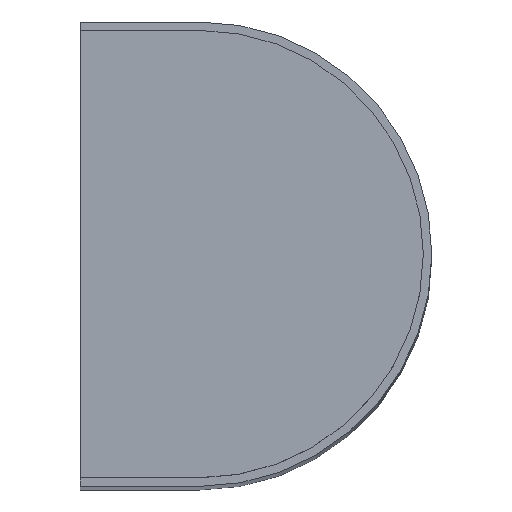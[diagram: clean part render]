
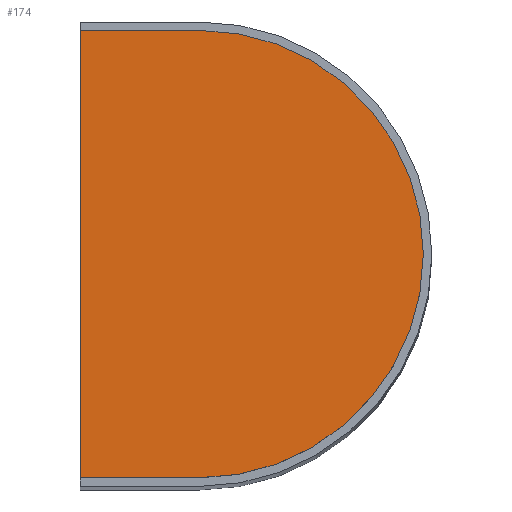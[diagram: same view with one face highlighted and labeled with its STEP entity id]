
A CAD part, top view. The second image highlights one B-rep face of the part: STEP entity #174.
In plain terms, the highlighted planar face has unit normal (0, 0, 1).
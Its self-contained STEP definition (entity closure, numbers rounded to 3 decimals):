
#39 = ORIENTED_EDGE ( 'NONE', *, *, #203, .T. ) ;
#40 = ORIENTED_EDGE ( 'NONE', *, *, #209, .T. ) ;
#41 = ORIENTED_EDGE ( 'NONE', *, *, #215, .T. ) ;
#42 = ORIENTED_EDGE ( 'NONE', *, *, #224, .T. ) ;
#78 = VERTEX_POINT ( 'NONE', #321 ) ;
#86 = VERTEX_POINT ( 'NONE', #294 ) ;
#88 = VERTEX_POINT ( 'NONE', #291 ) ;
#89 = VERTEX_POINT ( 'NONE', #287 ) ;
#108 = EDGE_LOOP ( 'NONE', ( #39, #40, #41, #42 ) ) ;
#127 = FACE_OUTER_BOUND ( 'NONE', #108, .T. ) ;
#150 = LINE ( 'NONE', #363, #153 ) ;
#153 = VECTOR ( 'NONE', #361, 1000. ) ;
#174 = ADVANCED_FACE ( 'NONE', ( #127 ), #405, .T. ) ;
#181 = CIRCLE ( 'NONE', #249, 65.5 ) ;
#203 = EDGE_CURVE ( 'NONE', #89, #88, #150, .T. ) ;
#209 = EDGE_CURVE ( 'NONE', #88, #86, #467, .T. ) ;
#215 = EDGE_CURVE ( 'NONE', #86, #78, #442, .T. ) ;
#224 = EDGE_CURVE ( 'NONE', #78, #89, #181, .T. ) ;
#240 = AXIS2_PLACEMENT_3D ( 'NONE', #403, #398, #397 ) ;
#249 = AXIS2_PLACEMENT_3D ( 'NONE', #312, #311, #310 ) ;
#287 = CARTESIAN_POINT ( 'NONE',  ( -68., 65.5, 325.25 ) ) ;
#291 = CARTESIAN_POINT ( 'NONE',  ( -103., 65.5, 325.25 ) ) ;
#294 = CARTESIAN_POINT ( 'NONE',  ( -103., -65.5, 325.25 ) ) ;
#310 = DIRECTION ( 'NONE',  ( 1., 0., 0. ) ) ;
#311 = DIRECTION ( 'NONE',  ( 0., 0., 1. ) ) ;
#312 = CARTESIAN_POINT ( 'NONE',  ( -68., 0., 325.25 ) ) ;
#321 = CARTESIAN_POINT ( 'NONE',  ( -68., -65.5, 325.25 ) ) ;
#340 = DIRECTION ( 'NONE',  ( 1., 0., 0. ) ) ;
#351 = DIRECTION ( 'NONE',  ( 0., -1., 0. ) ) ;
#353 = CARTESIAN_POINT ( 'NONE',  ( -103., -65.5, 325.25 ) ) ;
#356 = CARTESIAN_POINT ( 'NONE',  ( -103., 65.5, 325.25 ) ) ;
#361 = DIRECTION ( 'NONE',  ( -1., 0., 0. ) ) ;
#363 = CARTESIAN_POINT ( 'NONE',  ( -68., 65.5, 325.25 ) ) ;
#397 = DIRECTION ( 'NONE',  ( 1., 0., 0. ) ) ;
#398 = DIRECTION ( 'NONE',  ( 0., 0., 1. ) ) ;
#403 = CARTESIAN_POINT ( 'NONE',  ( -68., 0., 325.25 ) ) ;
#405 = PLANE ( 'NONE',  #240 ) ;
#442 = LINE ( 'NONE', #353, #445 ) ;
#445 = VECTOR ( 'NONE', #340, 1000. ) ;
#463 = VECTOR ( 'NONE', #351, 1000. ) ;
#467 = LINE ( 'NONE', #356, #463 ) ;
